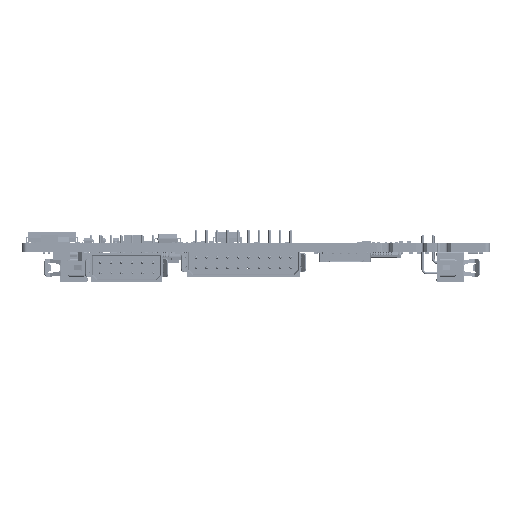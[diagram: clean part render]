
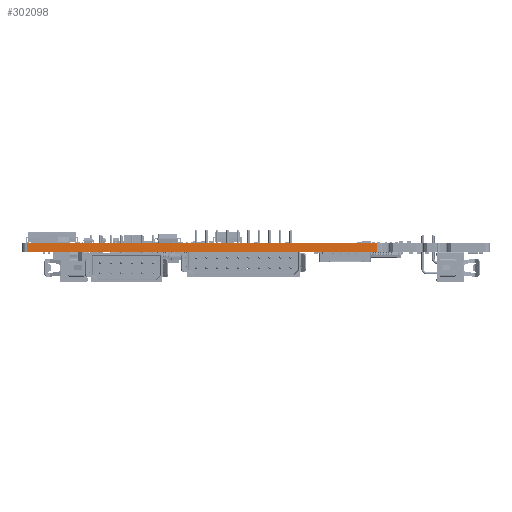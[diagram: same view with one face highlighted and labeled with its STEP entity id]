
A CAD part, front view. The second image highlights one B-rep face of the part: STEP entity #302098.
In plain terms, the highlighted planar face has unit normal (0, -1, 0).
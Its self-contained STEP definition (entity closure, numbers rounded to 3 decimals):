
#7702=DIRECTION('',(0.,0.,-1.));
#7703=VECTOR('',#7702,1.6);
#7704=CARTESIAN_POINT('',(105.001,-153.004,1.6));
#7705=LINE('',#7704,#7703);
#7706=DIRECTION('',(1.,0.,0.));
#7707=VECTOR('',#7706,66.5);
#7708=CARTESIAN_POINT('',(105.001,-153.004,1.6));
#7709=LINE('',#7708,#7707);
#7710=DIRECTION('',(0.,0.,1.));
#7711=VECTOR('',#7710,1.6);
#7712=CARTESIAN_POINT('',(171.501,-153.004,0.));
#7713=LINE('',#7712,#7711);
#7908=DIRECTION('',(1.,0.,0.));
#7909=VECTOR('',#7908,66.5);
#7910=CARTESIAN_POINT('',(105.001,-153.004,0.));
#7911=LINE('',#7910,#7909);
#232245=CARTESIAN_POINT('',(171.501,-153.004,1.6));
#232246=VERTEX_POINT('',#232245);
#232247=CARTESIAN_POINT('',(105.001,-153.004,1.6));
#232248=VERTEX_POINT('',#232247);
#233414=CARTESIAN_POINT('',(105.001,-153.004,0.));
#233415=VERTEX_POINT('',#233414);
#233416=CARTESIAN_POINT('',(171.501,-153.004,0.));
#233417=VERTEX_POINT('',#233416);
#302085=CARTESIAN_POINT('',(105.001,-153.004,0.));
#302086=DIRECTION('',(0.,1.,0.));
#302087=DIRECTION('',(1.,0.,0.));
#302088=AXIS2_PLACEMENT_3D('',#302085,#302086,#302087);
#302089=PLANE('',#302088);
#302090=ORIENTED_EDGE('',*,*,#302078,.F.);
#302091=ORIENTED_EDGE('',*,*,#297584,.T.);
#302093=ORIENTED_EDGE('',*,*,#302092,.F.);
#302095=ORIENTED_EDGE('',*,*,#302094,.F.);
#302096=EDGE_LOOP('',(#302090,#302091,#302093,#302095));
#302097=FACE_OUTER_BOUND('',#302096,.F.);
#302098=ADVANCED_FACE('',(#302097),#302089,.F.);
#297584=EDGE_CURVE('',#232248,#232246,#7709,.T.);
#302078=EDGE_CURVE('',#232248,#233415,#7705,.T.);
#302092=EDGE_CURVE('',#233417,#232246,#7713,.T.);
#302094=EDGE_CURVE('',#233415,#233417,#7911,.T.);
